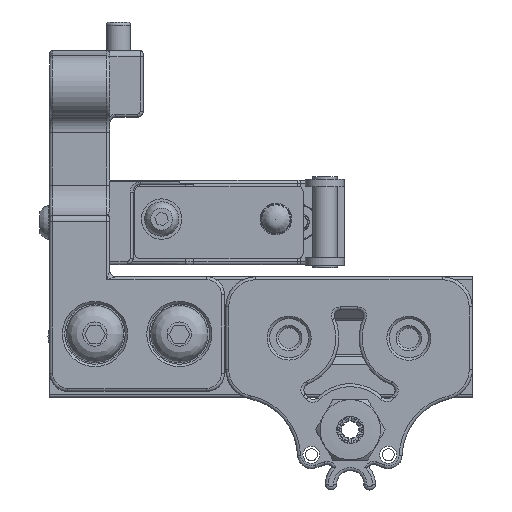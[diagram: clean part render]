
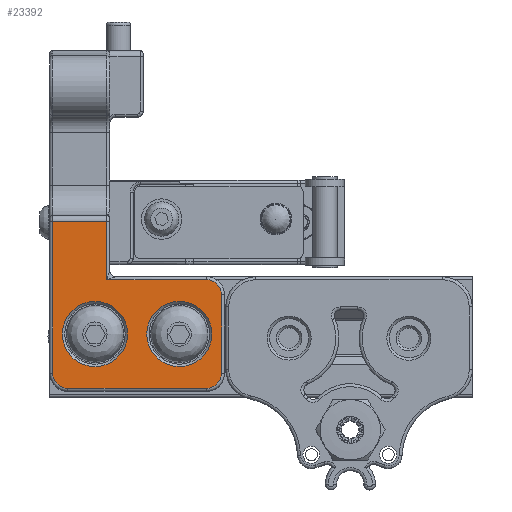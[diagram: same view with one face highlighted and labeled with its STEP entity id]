
A CAD part, top view. The second image highlights one B-rep face of the part: STEP entity #23392.
In plain terms, the highlighted planar face has unit normal (0, 0, 1).
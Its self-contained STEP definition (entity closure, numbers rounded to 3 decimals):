
#656=FACE_BOUND('',#7351,.T.);
#657=FACE_BOUND('',#7352,.T.);
#1817=PLANE('',#25593);
#2710=LINE('',#71833,#4015);
#2711=LINE('',#71837,#4016);
#2712=LINE('',#71841,#4017);
#2713=LINE('',#71843,#4018);
#2714=LINE('',#71845,#4019);
#2715=LINE('',#71846,#4020);
#4015=VECTOR('',#30121,10.);
#4016=VECTOR('',#30124,10.);
#4017=VECTOR('',#30127,10.);
#4018=VECTOR('',#30128,10.);
#4019=VECTOR('',#30129,1.);
#4020=VECTOR('',#30130,10.);
#5868=FACE_OUTER_BOUND('',#7350,.T.);
#7350=EDGE_LOOP('',(#19087,#19088,#19089,#19090,#19091,#19092,#19093,#19094,
#19095));
#7351=EDGE_LOOP('',(#19096));
#7352=EDGE_LOOP('',(#19097));
#8666=CIRCLE('',#25590,5.4);
#8669=CIRCLE('',#25594,2.5);
#8670=CIRCLE('',#25595,2.5);
#8671=CIRCLE('',#25596,2.5);
#8672=CIRCLE('',#25597,5.4);
#10761=VERTEX_POINT('',#71821);
#10764=VERTEX_POINT('',#71829);
#10765=VERTEX_POINT('',#71830);
#10766=VERTEX_POINT('',#71832);
#10767=VERTEX_POINT('',#71834);
#10768=VERTEX_POINT('',#71836);
#10769=VERTEX_POINT('',#71838);
#10770=VERTEX_POINT('',#71840);
#10771=VERTEX_POINT('',#71842);
#10772=VERTEX_POINT('',#71844);
#10773=VERTEX_POINT('',#71847);
#13664=EDGE_CURVE('',#10761,#10761,#8666,.T.);
#13668=EDGE_CURVE('',#10764,#10765,#8669,.T.);
#13669=EDGE_CURVE('',#10766,#10764,#2710,.T.);
#13670=EDGE_CURVE('',#10767,#10766,#8670,.T.);
#13671=EDGE_CURVE('',#10768,#10767,#2711,.T.);
#13672=EDGE_CURVE('',#10769,#10768,#8671,.T.);
#13673=EDGE_CURVE('',#10770,#10769,#2712,.T.);
#13674=EDGE_CURVE('',#10771,#10770,#2713,.T.);
#13675=EDGE_CURVE('',#10772,#10771,#2714,.T.);
#13676=EDGE_CURVE('',#10765,#10772,#2715,.T.);
#13677=EDGE_CURVE('',#10773,#10773,#8672,.T.);
#19087=ORIENTED_EDGE('',*,*,#13668,.F.);
#19088=ORIENTED_EDGE('',*,*,#13669,.F.);
#19089=ORIENTED_EDGE('',*,*,#13670,.F.);
#19090=ORIENTED_EDGE('',*,*,#13671,.F.);
#19091=ORIENTED_EDGE('',*,*,#13672,.F.);
#19092=ORIENTED_EDGE('',*,*,#13673,.F.);
#19093=ORIENTED_EDGE('',*,*,#13674,.F.);
#19094=ORIENTED_EDGE('',*,*,#13675,.F.);
#19095=ORIENTED_EDGE('',*,*,#13676,.F.);
#19096=ORIENTED_EDGE('',*,*,#13677,.F.);
#19097=ORIENTED_EDGE('',*,*,#13664,.F.);
#23392=ADVANCED_FACE('',(#5868,#656,#657),#1817,.F.);
#25590=AXIS2_PLACEMENT_3D('',#71822,#30110,#30111);
#25593=AXIS2_PLACEMENT_3D('',#71828,#30117,#30118);
#25594=AXIS2_PLACEMENT_3D('',#71831,#30119,#30120);
#25595=AXIS2_PLACEMENT_3D('',#71835,#30122,#30123);
#25596=AXIS2_PLACEMENT_3D('',#71839,#30125,#30126);
#25597=AXIS2_PLACEMENT_3D('',#71848,#30131,#30132);
#30110=DIRECTION('center_axis',(0.,0.,
1.));
#30111=DIRECTION('ref_axis',(-1.,0.,0.));
#30117=DIRECTION('center_axis',(0.,0.,
-1.));
#30118=DIRECTION('ref_axis',(0.,-1.,0.));
#30119=DIRECTION('center_axis',(0.,0.,
-1.));
#30120=DIRECTION('ref_axis',(-0.473,-0.881,0.));
#30121=DIRECTION('',(-1.,0.,0.));
#30122=DIRECTION('center_axis',(0.,0.,
-1.));
#30123=DIRECTION('ref_axis',(0.707,-0.707,0.));
#30124=DIRECTION('',(0.,-1.,0.));
#30125=DIRECTION('center_axis',(0.,0.,
-1.));
#30126=DIRECTION('ref_axis',(0.707,0.707,0.));
#30127=DIRECTION('',(1.,0.,0.));
#30128=DIRECTION('',(0.,-1.,0.));
#30129=DIRECTION('',(1.,0.,0.));
#30130=DIRECTION('',(0.,1.,0.));
#30131=DIRECTION('center_axis',(0.,0.,
1.));
#30132=DIRECTION('ref_axis',(-1.,0.,0.));
#71821=CARTESIAN_POINT('',(-21.788,37.852,34.65));
#71822=CARTESIAN_POINT('Origin',(-27.188,37.852,34.65));
#71828=CARTESIAN_POINT('Origin',(-24.718,57.52,34.65));
#71829=CARTESIAN_POINT('',(-31.678,28.852,34.65));
#71830=CARTESIAN_POINT('',(-34.178,31.352,34.65));
#71831=CARTESIAN_POINT('Origin',(-31.678,31.352,34.65));
#71832=CARTESIAN_POINT('',(-8.718,28.852,34.65));
#71833=CARTESIAN_POINT('',(-15.218,28.852,34.65));
#71834=CARTESIAN_POINT('',(-6.218,31.352,34.65));
#71835=CARTESIAN_POINT('Origin',(-8.718,31.352,34.65));
#71836=CARTESIAN_POINT('',(-6.218,44.352,34.65));
#71837=CARTESIAN_POINT('',(-6.218,52.436,34.65));
#71838=CARTESIAN_POINT('',(-8.718,46.852,34.65));
#71839=CARTESIAN_POINT('Origin',(-8.718,44.352,34.65));
#71840=CARTESIAN_POINT('',(-25.218,46.852,34.65));
#71841=CARTESIAN_POINT('',(-24.968,46.852,34.65));
#71842=CARTESIAN_POINT('',(-25.218,56.52,34.65));
#71843=CARTESIAN_POINT('',(-25.218,49.061,34.65));
#71844=CARTESIAN_POINT('',(-34.178,56.52,34.65));
#71845=CARTESIAN_POINT('',(-23.961,56.52,34.65));
#71846=CARTESIAN_POINT('',(-34.178,64.751,34.65));
#71847=CARTESIAN_POINT('',(-7.808,37.852,34.65));
#71848=CARTESIAN_POINT('Origin',(-13.208,37.852,34.65));
